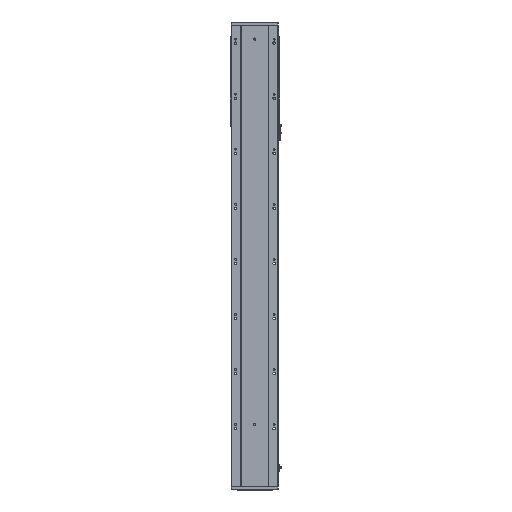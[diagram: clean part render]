
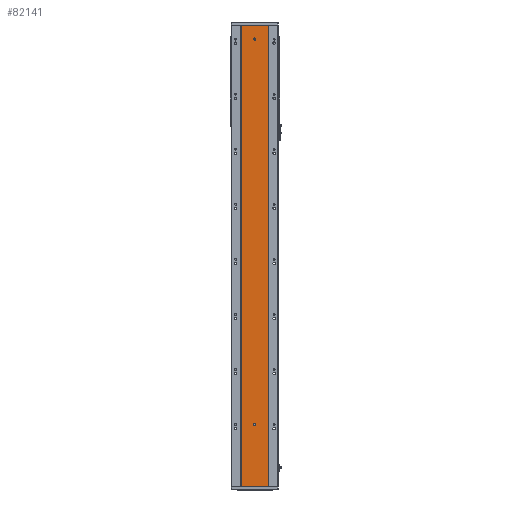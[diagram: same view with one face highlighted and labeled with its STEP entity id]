
A CAD part, front view. The second image highlights one B-rep face of the part: STEP entity #82141.
In plain terms, the highlighted planar face has unit normal (0, -1, 0).
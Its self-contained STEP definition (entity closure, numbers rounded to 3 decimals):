
#6092 = CARTESIAN_POINT ( 'NONE',  ( 0., 79.476, 1676. ) ) ;
#6093 = DIRECTION ( 'NONE',  ( 0., 0., 1. ) ) ;
#6114 = PLANE ( 'NONE',  #27633 ) ;
#6116 = DIRECTION ( 'NONE',  ( 0., 1., 0. ) ) ;
#9001 = CARTESIAN_POINT ( 'NONE',  ( 136.47, 79.476, 222. ) ) ;
#9008 = CARTESIAN_POINT ( 'NONE',  ( 136.47, 79.476, 230. ) ) ;
#9052 = CARTESIAN_POINT ( 'NONE',  ( 136.47, 79.476, 1630. ) ) ;
#9097 = CARTESIAN_POINT ( 'NONE',  ( 136.47, 79.476, 1622. ) ) ;
#18626 = EDGE_LOOP ( 'NONE', ( #79758, #79751, #79749, #79721 ) ) ;
#18645 = EDGE_LOOP ( 'NONE', ( #79796, #79831 ) ) ;
#18671 = EDGE_LOOP ( 'NONE', ( #45239, #45368 ) ) ;
#24845 = CARTESIAN_POINT ( 'NONE',  ( 86.97, 79.476, 0. ) ) ;
#24890 = CARTESIAN_POINT ( 'NONE',  ( 185.97, 79.476, 0. ) ) ;
#25024 = CARTESIAN_POINT ( 'NONE',  ( 86.97, 79.476, 1676. ) ) ;
#25065 = CARTESIAN_POINT ( 'NONE',  ( 185.97, 79.476, 1676. ) ) ;
#25927 = B_SPLINE_CURVE_WITH_KNOTS ( 'NONE', 3,
 ( #49783, #49829, #49837, #49843 ),
 .UNSPECIFIED., .F., .F.,
 ( 4, 4 ),
 ( 0., 1. ),
 .UNSPECIFIED. ) ;
#26017 = B_SPLINE_CURVE_WITH_KNOTS ( 'NONE', 3,
 ( #49859, #49878, #49855, #49875 ),
 .UNSPECIFIED., .F., .F.,
 ( 4, 4 ),
 ( 0., 1. ),
 .UNSPECIFIED. ) ;
#27633 = AXIS2_PLACEMENT_3D ( 'NONE', #6092, #6116, #6093 ) ;
#28943 = VERTEX_POINT ( 'NONE', #24845 ) ;
#28990 = VERTEX_POINT ( 'NONE', #24890 ) ;
#29060 = VERTEX_POINT ( 'NONE', #25065 ) ;
#29061 = VERTEX_POINT ( 'NONE', #25024 ) ;
#29832 = VERTEX_POINT ( 'NONE', #9001 ) ;
#29842 = VERTEX_POINT ( 'NONE', #9008 ) ;
#29878 = VERTEX_POINT ( 'NONE', #9052 ) ;
#29891 = VERTEX_POINT ( 'NONE', #9097 ) ;
#42954 = EDGE_CURVE ( 'NONE', #29832, #29842, #67976, .T. ) ;
#42961 = EDGE_CURVE ( 'NONE', #29891, #29878, #67904, .T. ) ;
#42965 = EDGE_CURVE ( 'NONE', #29061, #28943, #25927, .T. ) ;
#42993 = EDGE_CURVE ( 'NONE', #29060, #28990, #26017, .T. ) ;
#43004 = EDGE_CURVE ( 'NONE', #28943, #28990, #67979, .T. ) ;
#43008 = EDGE_CURVE ( 'NONE', #29061, #29060, #67982, .T. ) ;
#45239 = ORIENTED_EDGE ( 'NONE', *, *, #42961, .F. ) ;
#45368 = ORIENTED_EDGE ( 'NONE', *, *, #45474, .F. ) ;
#45443 = EDGE_CURVE ( 'NONE', #29842, #29832, #68541, .T. ) ;
#45474 = EDGE_CURVE ( 'NONE', #29878, #29891, #68656, .T. ) ;
#46459 = DIRECTION ( 'NONE',  ( 0., -1., 0. ) ) ;
#46480 = DIRECTION ( 'NONE',  ( 0., 0., -1. ) ) ;
#46490 = CARTESIAN_POINT ( 'NONE',  ( 136.47, 79.476, 1626. ) ) ;
#46917 = CARTESIAN_POINT ( 'NONE',  ( 136.47, 79.476, 226. ) ) ;
#46919 = DIRECTION ( 'NONE',  ( 0., 0., -1. ) ) ;
#46945 = DIRECTION ( 'NONE',  ( 0., -1., 0. ) ) ;
#49761 = DIRECTION ( 'NONE',  ( 0., 0., -1. ) ) ;
#49762 = DIRECTION ( 'NONE',  ( 0., -1., 0. ) ) ;
#49777 = DIRECTION ( 'NONE',  ( 0., -1., 0. ) ) ;
#49779 = DIRECTION ( 'NONE',  ( 0., 0., -1. ) ) ;
#49783 = CARTESIAN_POINT ( 'NONE',  ( 86.97, 79.476, 1676. ) ) ;
#49784 = CARTESIAN_POINT ( 'NONE',  ( 136.47, 79.476, 226. ) ) ;
#49786 = CARTESIAN_POINT ( 'NONE',  ( 136.47, 79.476, 1626. ) ) ;
#49829 = CARTESIAN_POINT ( 'NONE',  ( 86.97, 79.476, 1117.333 ) ) ;
#49837 = CARTESIAN_POINT ( 'NONE',  ( 86.97, 79.476, 558.667 ) ) ;
#49843 = CARTESIAN_POINT ( 'NONE',  ( 86.97, 79.476, 0. ) ) ;
#49851 = CARTESIAN_POINT ( 'NONE',  ( 0., 79.476, 1676. ) ) ;
#49855 = CARTESIAN_POINT ( 'NONE',  ( 185.97, 79.476, 558.667 ) ) ;
#49859 = CARTESIAN_POINT ( 'NONE',  ( 185.97, 79.476, 1676. ) ) ;
#49875 = CARTESIAN_POINT ( 'NONE',  ( 185.97, 79.476, 0. ) ) ;
#49878 = CARTESIAN_POINT ( 'NONE',  ( 185.97, 79.476, 1117.333 ) ) ;
#49884 = CARTESIAN_POINT ( 'NONE',  ( 0., 79.476, 0. ) ) ;
#49890 = DIRECTION ( 'NONE',  ( 1., 0., 0. ) ) ;
#49892 = DIRECTION ( 'NONE',  ( 1., 0., 0. ) ) ;
#58138 = AXIS2_PLACEMENT_3D ( 'NONE', #49784, #49762, #49761 ) ;
#58166 = AXIS2_PLACEMENT_3D ( 'NONE', #49786, #49777, #49779 ) ;
#58237 = AXIS2_PLACEMENT_3D ( 'NONE', #46490, #46459, #46480 ) ;
#58267 = AXIS2_PLACEMENT_3D ( 'NONE', #46917, #46945, #46919 ) ;
#67904 = CIRCLE ( 'NONE', #58166, 4. ) ;
#67976 = CIRCLE ( 'NONE', #58138, 4. ) ;
#67979 = LINE ( 'NONE', #49884, #67984 ) ;
#67982 = LINE ( 'NONE', #49851, #68035 ) ;
#67984 = VECTOR ( 'NONE', #49890, 1000. ) ;
#68035 = VECTOR ( 'NONE', #49892, 1000. ) ;
#68541 = CIRCLE ( 'NONE', #58267, 4. ) ;
#68656 = CIRCLE ( 'NONE', #58237, 4. ) ;
#79721 = ORIENTED_EDGE ( 'NONE', *, *, #42965, .T. ) ;
#79749 = ORIENTED_EDGE ( 'NONE', *, *, #43008, .F. ) ;
#79751 = ORIENTED_EDGE ( 'NONE', *, *, #42993, .F. ) ;
#79758 = ORIENTED_EDGE ( 'NONE', *, *, #43004, .T. ) ;
#79796 = ORIENTED_EDGE ( 'NONE', *, *, #42954, .F. ) ;
#79831 = ORIENTED_EDGE ( 'NONE', *, *, #45443, .F. ) ;
#82141 = ADVANCED_FACE ( 'NONE', ( #83368, #83316, #83361 ), #6114, .F. ) ;
#83316 = FACE_BOUND ( 'NONE', #18645, .T. ) ;
#83361 = FACE_OUTER_BOUND ( 'NONE', #18626, .T. ) ;
#83368 = FACE_BOUND ( 'NONE', #18671, .T. ) ;
